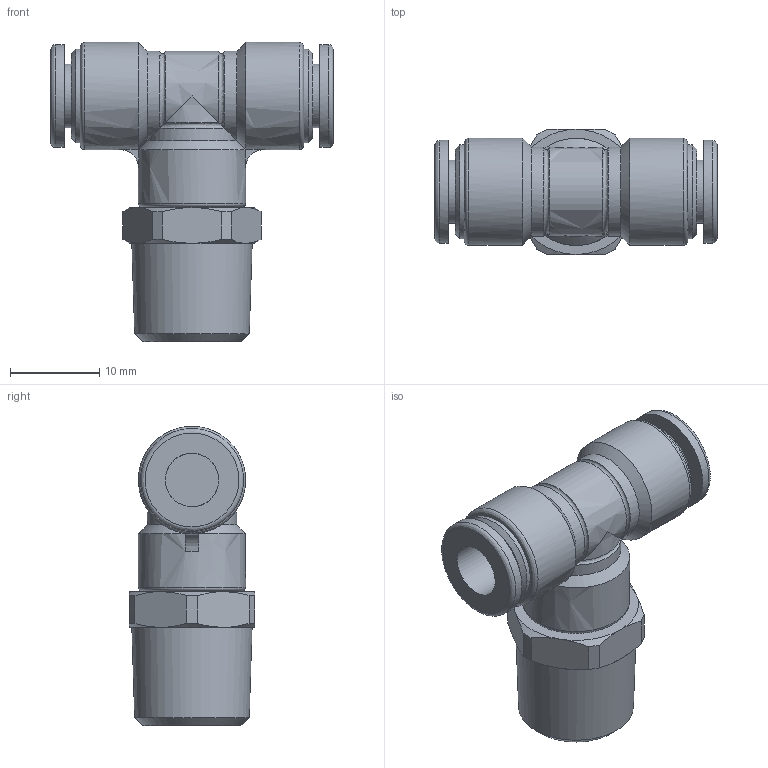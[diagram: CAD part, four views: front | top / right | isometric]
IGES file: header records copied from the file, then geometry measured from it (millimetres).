
Global section: file name: [06] FS6-02MT FS6-02MTW; native system: Autodesk Inventor 2014; preprocessor: unknown; author: kazuhiro.t; date: 20130806.165331; units: millimetre
Bounding box: 31.6 x 14 x 33.5 mm (x, y, z)
Volume: 5300.5 mm3; surface area: 3125.9 mm2
Topology: 1 solids, 1 shells, 86 faces, 202 edges, 128 vertices
Faces by surface type: bspline 86
